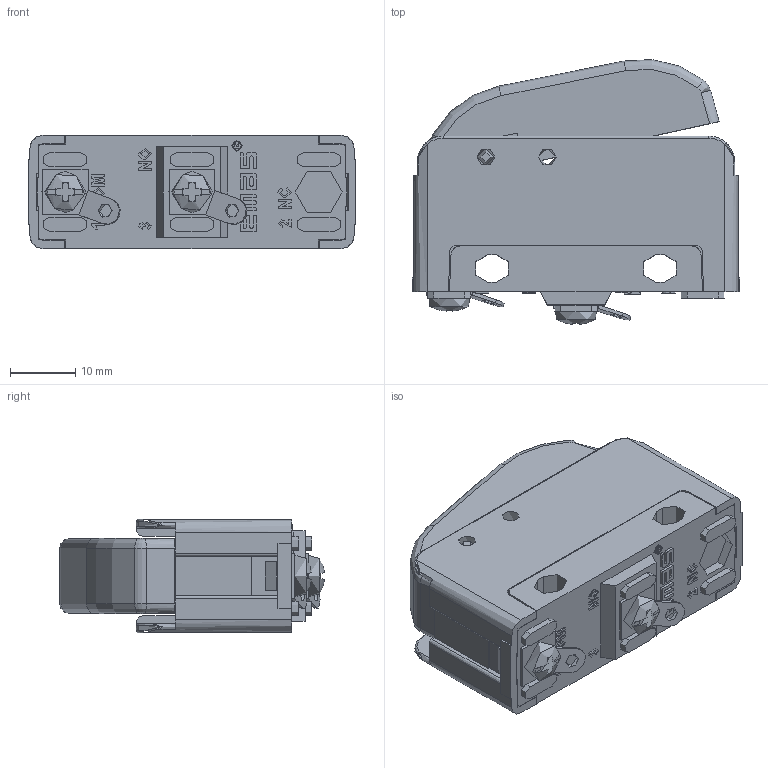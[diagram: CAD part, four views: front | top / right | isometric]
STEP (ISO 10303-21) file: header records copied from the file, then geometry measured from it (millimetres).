
FILE_DESCRIPTION((''),'2; 1');
FILE_NAME('','2026-03-27T16:31:36',(''),(''),'CST STEP Exporter V1.0','Unknown','');
FILE_SCHEMA(('CONFIG_CONTROL_DESIGN'));
Length unit declared in the file: metre
Assembly tree (11 placements, depth 2):
  (unnamed)
    (unnamed)
    (unnamed)
    (unnamed)
    (unnamed)
    (unnamed)
    (unnamed)
    (unnamed)
    (unnamed)
    (unnamed)
    (unnamed)
    (unnamed)
Bounding box: 50.1 x 40.52 x 17.4 mm (x, y, z)
Topology: 0 solids, 34 shells, 489 faces, 1514 edges, 1045 vertices
Faces by surface type: plane 282, cylinder 125, extrusion 58, torus 17, cone 4, sphere 2, bspline 1
Full cylindrical faces by diameter (mm): 1.4 x1, 1.8 x1, 2.2 x2, 2.7 x4
Entity records: 23414 total; most frequent: CARTESIAN_POINT 5997, ORIENTED_EDGE 2716, DIRECTION 2569, EDGE_CURVE 1533, VERTEX_POINT 1054, VECTOR 1035, LINE 977, AXIS2_PLACEMENT_3D 767
